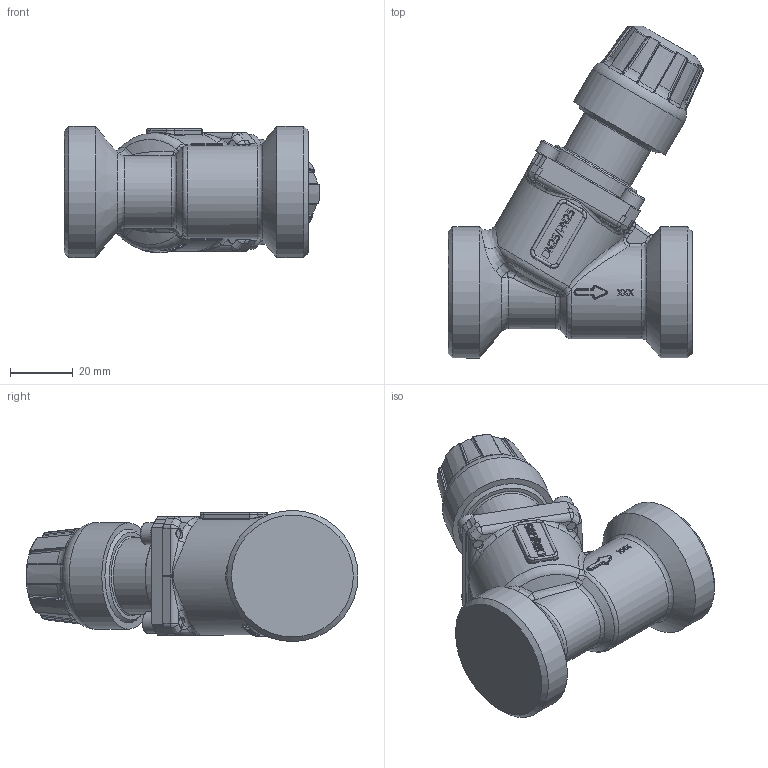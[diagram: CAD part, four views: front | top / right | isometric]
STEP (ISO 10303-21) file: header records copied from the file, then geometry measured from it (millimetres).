
FILE_DESCRIPTION(/* description */ ('Dansk beskrivelse'),/* implementation_level */ '2;1');
FILE_NAME(/* name */ 'C:\Users\jjo\Desktop\Siemens Cad modeller\53-1517.stp',/* time_stamp */ '2015-05-05T12:59:08+02:00',/* author */ ('jjo'),/* organization */ (''),/* preprocessor_version */ 'ST-DEVELOPER v15.2',/* originating_system */ 'Autodesk Inventor 2014',/* authorisation */ '0 mm^3');
FILE_SCHEMA (('AUTOMOTIVE_DESIGN { 1 0 10303 214 3 1 1 }'));
Products named in the file (1): 53-1317_Shrinkwrap_1
Bounding box: 81.69 x 106.06 x 41.91 mm (x, y, z)
Volume: 137066.4 mm3; surface area: 21203 mm2
Topology: 1 solids, 1 shells, 857 faces, 2201 edges, 1360 vertices
Faces by surface type: bspline 451, plane 237, cylinder 81, torus 44, cone 34, sphere 10
Full cylindrical faces by diameter (mm): 3.242 x4, 7 x4, 24.5 x1, 30 x1, 34 x1, 41.91 x2
Entity records: 75696 total; most frequent: CARTESIAN_POINT 57376, ORIENTED_EDGE 4264, DIRECTION 2460, EDGE_CURVE 2132, VERTEX_POINT 1342, B_SPLINE_CURVE_WITH_KNOTS 987, EDGE_LOOP 922, AXIS2_PLACEMENT_3D 916
